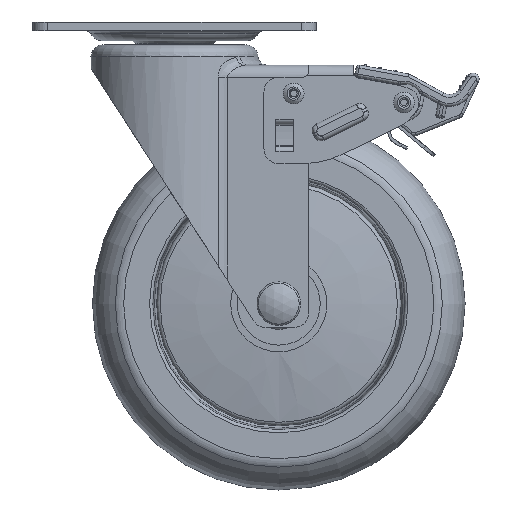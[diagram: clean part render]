
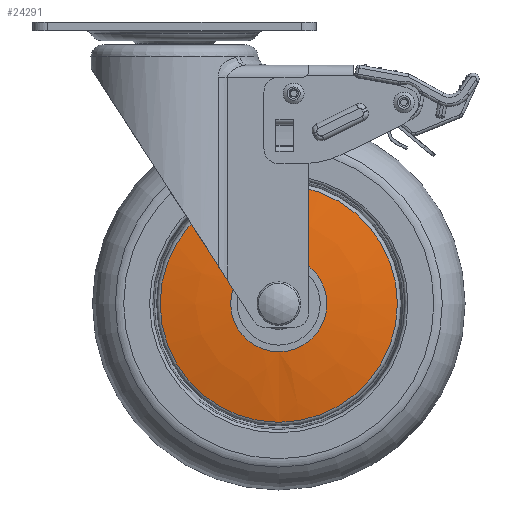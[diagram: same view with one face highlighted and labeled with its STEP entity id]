
A CAD part, front view. The second image highlights one B-rep face of the part: STEP entity #24291.
In plain terms, the highlighted free-form (B-spline) face has degree [2, 2] with [3, 9] control points.
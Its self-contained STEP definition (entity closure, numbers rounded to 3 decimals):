
#5457=(
BOUNDED_CURVE()
B_SPLINE_CURVE(2,(#35302,#35303,#35304),.UNSPECIFIED.,.F.,.F.)
B_SPLINE_CURVE_WITH_KNOTS((3,3),(1.358,1.496),
 .UNSPECIFIED.)
CURVE()
GEOMETRIC_REPRESENTATION_ITEM()
RATIONAL_B_SPLINE_CURVE((1.,0.998,1.))
REPRESENTATION_ITEM('')
);
#5486=(
BOUNDED_SURFACE()
B_SPLINE_SURFACE(2,2,((#35271,#35272,#35273,#35274,#35275,#35276,#35277,
#35278,#35279),(#35280,#35281,#35282,#35283,#35284,#35285,#35286,#35287,
#35288),(#35289,#35290,#35291,#35292,#35293,#35294,#35295,#35296,#35297)),
 .UNSPECIFIED.,.F.,.T.,.F.)
B_SPLINE_SURFACE_WITH_KNOTS((3,3),(3,2,2,2,3),(-1.496,-1.358),
(-3.142,-1.571,0.,1.571,3.142),
 .UNSPECIFIED.)
GEOMETRIC_REPRESENTATION_ITEM()
RATIONAL_B_SPLINE_SURFACE(((1.,0.707,1.,0.707,1.,
0.707,1.,0.707,1.),(0.998,0.705,
0.998,0.705,0.998,0.705,
0.998,0.705,0.998),(1.,0.707,
1.,0.707,1.,0.707,1.,0.707,1.)))
REPRESENTATION_ITEM('')
SURFACE()
);
#6258=FACE_OUTER_BOUND('',#7689,.T.);
#7689=EDGE_LOOP('',(#16244,#16245,#16246,#16247,#16248,#16249));
#9295=CIRCLE('',#25737,16.136);
#9296=CIRCLE('',#25738,16.136);
#9297=CIRCLE('',#25739,39.788);
#9298=CIRCLE('',#25740,39.788);
#10115=VERTEX_POINT('',#35264);
#10116=VERTEX_POINT('',#35265);
#10117=VERTEX_POINT('',#35298);
#10118=VERTEX_POINT('',#35299);
#12554=EDGE_CURVE('',#10115,#10116,#9295,.T.);
#12555=EDGE_CURVE('',#10116,#10115,#9296,.T.);
#12557=EDGE_CURVE('',#10117,#10118,#9297,.T.);
#12558=EDGE_CURVE('',#10118,#10117,#9298,.T.);
#12559=EDGE_CURVE('',#10118,#10116,#5457,.T.);
#16244=ORIENTED_EDGE('',*,*,#12557,.F.);
#16245=ORIENTED_EDGE('',*,*,#12558,.F.);
#16246=ORIENTED_EDGE('',*,*,#12559,.T.);
#16247=ORIENTED_EDGE('',*,*,#12555,.T.);
#16248=ORIENTED_EDGE('',*,*,#12554,.T.);
#16249=ORIENTED_EDGE('',*,*,#12559,.F.);
#24291=ADVANCED_FACE('',(#6258),#5486,.F.);
#25737=AXIS2_PLACEMENT_3D('',#35266,#28064,#28065);
#25738=AXIS2_PLACEMENT_3D('',#35267,#28066,#28067);
#25739=AXIS2_PLACEMENT_3D('',#35300,#28068,#28069);
#25740=AXIS2_PLACEMENT_3D('',#35301,#28070,#28071);
#28064=DIRECTION('center_axis',(0.,1.,0.));
#28065=DIRECTION('ref_axis',(1.,0.,0.));
#28066=DIRECTION('center_axis',(0.,1.,0.));
#28067=DIRECTION('ref_axis',(1.,0.,0.));
#28068=DIRECTION('center_axis',(0.,1.,0.));
#28069=DIRECTION('ref_axis',(1.,0.,0.));
#28070=DIRECTION('center_axis',(0.,1.,0.));
#28071=DIRECTION('ref_axis',(1.,0.,0.));
#35264=CARTESIAN_POINT('',(26.5,-18.667,-23.264));
#35265=CARTESIAN_POINT('',(26.5,-18.667,-55.536));
#35266=CARTESIAN_POINT('Origin',(26.5,-18.667,-39.4));
#35267=CARTESIAN_POINT('Origin',(26.5,-18.667,-39.4));
#35271=CARTESIAN_POINT('Ctrl Pts',(26.5,-18.667,-55.536));
#35272=CARTESIAN_POINT('Ctrl Pts',(10.364,-18.667,-55.536));
#35273=CARTESIAN_POINT('Ctrl Pts',(10.364,-18.667,-39.4));
#35274=CARTESIAN_POINT('Ctrl Pts',(10.364,-18.667,-23.264));
#35275=CARTESIAN_POINT('Ctrl Pts',(26.5,-18.667,-23.264));
#35276=CARTESIAN_POINT('Ctrl Pts',(42.636,-18.667,-23.264));
#35277=CARTESIAN_POINT('Ctrl Pts',(42.636,-18.667,-39.4));
#35278=CARTESIAN_POINT('Ctrl Pts',(42.636,-18.667,-55.536));
#35279=CARTESIAN_POINT('Ctrl Pts',(26.5,-18.667,-55.536));
#35280=CARTESIAN_POINT('Ctrl Pts',(26.5,-17.777,-67.48));
#35281=CARTESIAN_POINT('Ctrl Pts',(-1.58,-17.777,
-67.48));
#35282=CARTESIAN_POINT('Ctrl Pts',(-1.58,-17.777,
-39.4));
#35283=CARTESIAN_POINT('Ctrl Pts',(-1.58,-17.777,
-11.32));
#35284=CARTESIAN_POINT('Ctrl Pts',(26.5,-17.777,-11.32));
#35285=CARTESIAN_POINT('Ctrl Pts',(54.58,-17.777,-11.32));
#35286=CARTESIAN_POINT('Ctrl Pts',(54.58,-17.777,-39.4));
#35287=CARTESIAN_POINT('Ctrl Pts',(54.58,-17.777,-67.48));
#35288=CARTESIAN_POINT('Ctrl Pts',(26.5,-17.777,-67.48));
#35289=CARTESIAN_POINT('Ctrl Pts',(26.5,-15.25,-79.188));
#35290=CARTESIAN_POINT('Ctrl Pts',(-13.288,-15.25,
-79.188));
#35291=CARTESIAN_POINT('Ctrl Pts',(-13.288,-15.25,
-39.4));
#35292=CARTESIAN_POINT('Ctrl Pts',(-13.288,-15.25,
0.388));
#35293=CARTESIAN_POINT('Ctrl Pts',(26.5,-15.25,0.388));
#35294=CARTESIAN_POINT('Ctrl Pts',(66.288,-15.25,0.388));
#35295=CARTESIAN_POINT('Ctrl Pts',(66.288,-15.25,-39.4));
#35296=CARTESIAN_POINT('Ctrl Pts',(66.288,-15.25,-79.188));
#35297=CARTESIAN_POINT('Ctrl Pts',(26.5,-15.25,-79.188));
#35298=CARTESIAN_POINT('',(26.5,-15.25,0.388));
#35299=CARTESIAN_POINT('',(26.5,-15.25,-79.188));
#35300=CARTESIAN_POINT('Origin',(26.5,-15.25,-39.4));
#35301=CARTESIAN_POINT('Origin',(26.5,-15.25,-39.4));
#35302=CARTESIAN_POINT('Ctrl Pts',(26.5,-15.25,-79.188));
#35303=CARTESIAN_POINT('Ctrl Pts',(26.5,-17.777,-67.48));
#35304=CARTESIAN_POINT('Ctrl Pts',(26.5,-18.667,-55.536));
